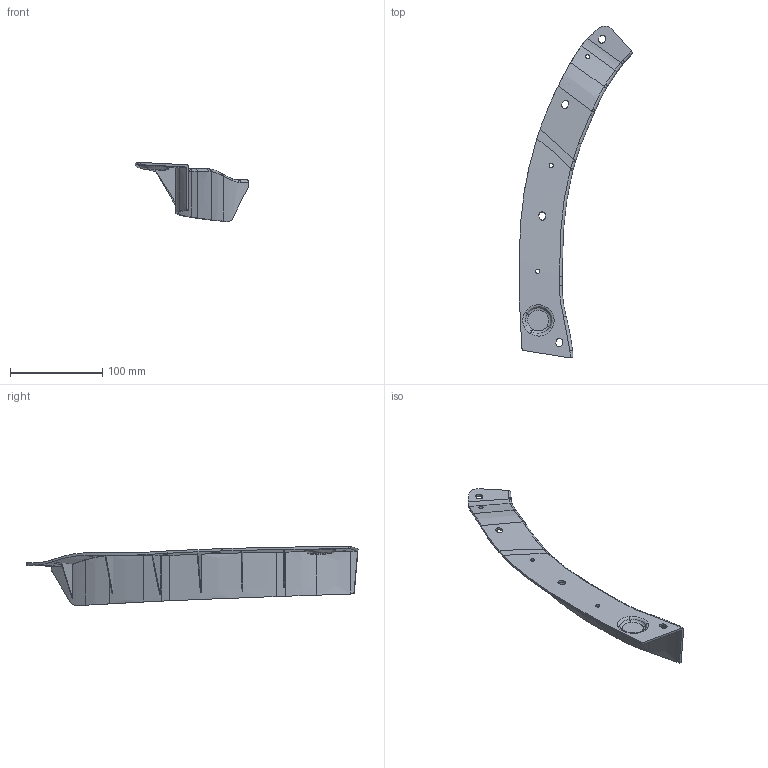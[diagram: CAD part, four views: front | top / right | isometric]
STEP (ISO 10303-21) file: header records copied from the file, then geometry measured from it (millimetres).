
FILE_DESCRIPTION(/* description */ (''),/* implementation_level */ '2;1');
FILE_NAME(/* name */ '638439763R_SHIELD-FR LH WHEEL HOUSE_stp.stp',/* time_stamp */ '2026-07-17T15:45:36+08:00',/* author */ (''),/* organization */ (''),/* preprocessor_version */ 'ST-DEVELOPER v16.7',/* originating_system */ 'SIEMENS PLM Software NX 12.0',/* authorisation */ '');
FILE_SCHEMA (('AUTOMOTIVE_DESIGN { 1 0 10303 214 3 1 1 1 }'));
Length unit declared in the file: millimetre
Products named in the file (1): admi85D0E95Fb4u1
Bounding box: 123.3 x 359.81 x 64.38 mm (x, y, z)
Volume: 85769.4 mm3; surface area: 75320.7 mm2
Topology: 1 solids, 1 shells, 147 faces, 402 edges, 259 vertices
Faces by surface type: bspline 80, extrusion 27, plane 25, cylinder 15
Full cylindrical faces by diameter (mm): 4.7 x2
Entity records: 16525 total; most frequent: CARTESIAN_POINT 13647, ORIENTED_EDGE 798, EDGE_CURVE 399, B_SPLINE_CURVE_WITH_KNOTS 354, VERTEX_POINT 259, DIRECTION 195, EDGE_LOOP 166, ADVANCED_FACE 147
